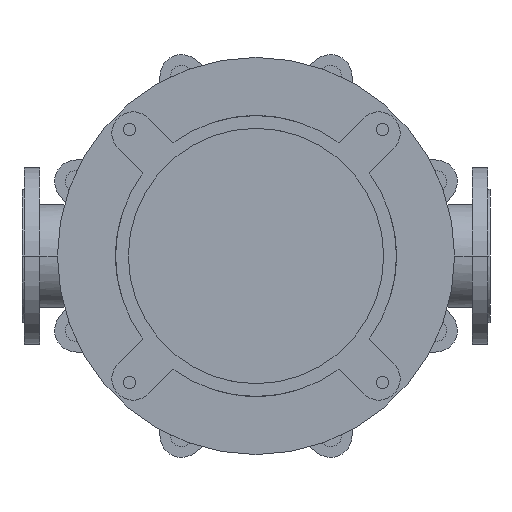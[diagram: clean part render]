
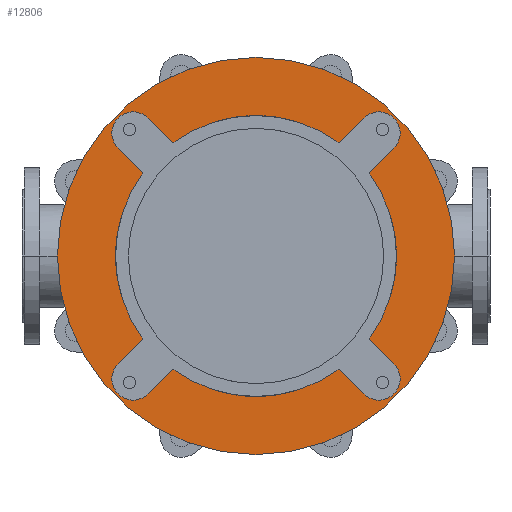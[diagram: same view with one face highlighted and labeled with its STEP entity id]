
A CAD part, front view. The second image highlights one B-rep face of the part: STEP entity #12806.
In plain terms, the highlighted planar face has unit normal (0, -1, 0).
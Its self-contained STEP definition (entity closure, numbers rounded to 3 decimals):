
#2514=CARTESIAN_POINT('',(0.,-25.,0.));
#2515=DIRECTION('',(0.,1.,0.));
#2516=DIRECTION('',(0.592,0.,-0.806));
#2517=AXIS2_PLACEMENT_3D('',#2514,#2515,#2516);
#2532=CARTESIAN_POINT('',(0.,-25.,0.));
#2533=DIRECTION('',(0.,1.,0.));
#2534=DIRECTION('',(0.806,0.,0.592));
#2535=AXIS2_PLACEMENT_3D('',#2532,#2533,#2534);
#2559=CARTESIAN_POINT('',(0.,-25.,0.));
#2560=DIRECTION('',(0.,1.,0.));
#2561=DIRECTION('',(-0.806,0.,-0.592));
#2562=AXIS2_PLACEMENT_3D('',#2559,#2560,#2561);
#2568=CARTESIAN_POINT('',(0.,-25.,0.));
#2569=DIRECTION('',(0.,1.,0.));
#2570=DIRECTION('',(-0.592,0.,0.806));
#2571=AXIS2_PLACEMENT_3D('',#2568,#2569,#2570);
#2746=CARTESIAN_POINT('',(0.,-25.,0.));
#2747=DIRECTION('',(0.,-1.,0.));
#2748=DIRECTION('',(-1.,0.,0.));
#2749=AXIS2_PLACEMENT_3D('',#2746,#2747,#2748);
#2751=CARTESIAN_POINT('',(0.,-25.,0.));
#2752=DIRECTION('',(0.,1.,0.));
#2753=DIRECTION('',(-1.,0.,0.));
#2754=AXIS2_PLACEMENT_3D('',#2751,#2752,#2753);
#2756=CARTESIAN_POINT('',(-173.241,-25.,173.241));
#2757=DIRECTION('',(0.,-1.,0.));
#2758=DIRECTION('',(0.707,0.,0.707));
#2759=AXIS2_PLACEMENT_3D('',#2756,#2757,#2758);
#2761=DIRECTION('',(0.707,0.,-0.707));
#2762=VECTOR('',#2761,49.286);
#2763=CARTESIAN_POINT('',(-194.454,-25.,152.028));
#2764=LINE('',#2763,#2762);
#2765=DIRECTION('',(-0.707,0.,-0.707));
#2766=VECTOR('',#2765,49.286);
#2767=CARTESIAN_POINT('',(-159.604,-25.,-117.178));
#2768=LINE('',#2767,#2766);
#2769=CARTESIAN_POINT('',(-173.241,-25.,-173.241));
#2770=DIRECTION('',(0.,-1.,0.));
#2771=DIRECTION('',(-0.707,0.,0.707));
#2772=AXIS2_PLACEMENT_3D('',#2769,#2770,#2771);
#2774=DIRECTION('',(0.707,0.,0.707));
#2775=VECTOR('',#2774,49.286);
#2776=CARTESIAN_POINT('',(-152.028,-25.,-194.454));
#2777=LINE('',#2776,#2775);
#2778=DIRECTION('',(0.707,0.,-0.707));
#2779=VECTOR('',#2778,49.286);
#2780=CARTESIAN_POINT('',(117.178,-25.,-159.604));
#2781=LINE('',#2780,#2779);
#2782=CARTESIAN_POINT('',(173.241,-25.,-173.241));
#2783=DIRECTION('',(0.,-1.,0.));
#2784=DIRECTION('',(-0.707,0.,-0.707));
#2785=AXIS2_PLACEMENT_3D('',#2782,#2783,#2784);
#2787=DIRECTION('',(-0.707,0.,0.707));
#2788=VECTOR('',#2787,49.286);
#2789=CARTESIAN_POINT('',(194.454,-25.,-152.028));
#2790=LINE('',#2789,#2788);
#2791=DIRECTION('',(0.707,0.,0.707));
#2792=VECTOR('',#2791,49.286);
#2793=CARTESIAN_POINT('',(159.604,-25.,117.178));
#2794=LINE('',#2793,#2792);
#2795=CARTESIAN_POINT('',(173.241,-25.,173.241));
#2796=DIRECTION('',(0.,-1.,0.));
#2797=DIRECTION('',(0.707,0.,-0.707));
#2798=AXIS2_PLACEMENT_3D('',#2795,#2796,#2797);
#2800=DIRECTION('',(-0.707,0.,-0.707));
#2801=VECTOR('',#2800,49.286);
#2802=CARTESIAN_POINT('',(152.028,-25.,194.454));
#2803=LINE('',#2802,#2801);
#2804=DIRECTION('',(-0.707,0.,0.707));
#2805=VECTOR('',#2804,49.286);
#2806=CARTESIAN_POINT('',(-117.178,-25.,159.604));
#2807=LINE('',#2806,#2805);
#8319=CARTESIAN_POINT('',(-280.,-25.,0.));
#8320=CARTESIAN_POINT('',(280.,-25.,0.));
#8321=VERTEX_POINT('',#8319);
#8322=VERTEX_POINT('',#8320);
#8343=CARTESIAN_POINT('',(-194.454,-25.,-152.028));
#8344=CARTESIAN_POINT('',(-152.028,-25.,-194.454));
#8345=VERTEX_POINT('',#8343);
#8346=VERTEX_POINT('',#8344);
#8347=CARTESIAN_POINT('',(-117.178,-25.,-159.604));
#8348=VERTEX_POINT('',#8347);
#8349=CARTESIAN_POINT('',(-159.604,-25.,-117.178));
#8350=VERTEX_POINT('',#8349);
#8359=CARTESIAN_POINT('',(152.028,-25.,-194.454));
#8360=CARTESIAN_POINT('',(194.454,-25.,-152.028));
#8361=VERTEX_POINT('',#8359);
#8362=VERTEX_POINT('',#8360);
#8363=CARTESIAN_POINT('',(159.604,-25.,-117.178));
#8364=VERTEX_POINT('',#8363);
#8365=CARTESIAN_POINT('',(117.178,-25.,-159.604));
#8366=VERTEX_POINT('',#8365);
#8375=CARTESIAN_POINT('',(194.454,-25.,152.028));
#8376=CARTESIAN_POINT('',(152.028,-25.,194.454));
#8377=VERTEX_POINT('',#8375);
#8378=VERTEX_POINT('',#8376);
#8379=CARTESIAN_POINT('',(117.178,-25.,159.604));
#8380=VERTEX_POINT('',#8379);
#8381=CARTESIAN_POINT('',(159.604,-25.,117.178));
#8382=VERTEX_POINT('',#8381);
#8391=CARTESIAN_POINT('',(-152.028,-25.,194.454));
#8392=CARTESIAN_POINT('',(-194.454,-25.,152.028));
#8393=VERTEX_POINT('',#8391);
#8394=VERTEX_POINT('',#8392);
#8395=CARTESIAN_POINT('',(-159.604,-25.,117.178));
#8396=VERTEX_POINT('',#8395);
#8397=CARTESIAN_POINT('',(-117.178,-25.,159.604));
#8398=VERTEX_POINT('',#8397);
#12766=CARTESIAN_POINT('',(0.,-25.,0.));
#12767=DIRECTION('',(0.,-1.,0.));
#12768=DIRECTION('',(-1.,0.,0.));
#12769=AXIS2_PLACEMENT_3D('',#12766,#12767,#12768);
#12770=PLANE('',#12769);
#12772=ORIENTED_EDGE('',*,*,#12771,.F.);
#12774=ORIENTED_EDGE('',*,*,#12773,.T.);
#12775=EDGE_LOOP('',(#12772,#12774));
#12776=FACE_OUTER_BOUND('',#12775,.F.);
#12778=ORIENTED_EDGE('',*,*,#12777,.T.);
#12780=ORIENTED_EDGE('',*,*,#12779,.T.);
#12781=ORIENTED_EDGE('',*,*,#12719,.F.);
#12783=ORIENTED_EDGE('',*,*,#12782,.T.);
#12785=ORIENTED_EDGE('',*,*,#12784,.T.);
#12787=ORIENTED_EDGE('',*,*,#12786,.T.);
#12788=ORIENTED_EDGE('',*,*,#12672,.F.);
#12789=ORIENTED_EDGE('',*,*,#12756,.T.);
#12791=ORIENTED_EDGE('',*,*,#12790,.T.);
#12793=ORIENTED_EDGE('',*,*,#12792,.T.);
#12794=ORIENTED_EDGE('',*,*,#12693,.F.);
#12796=ORIENTED_EDGE('',*,*,#12795,.T.);
#12798=ORIENTED_EDGE('',*,*,#12797,.T.);
#12800=ORIENTED_EDGE('',*,*,#12799,.T.);
#12801=ORIENTED_EDGE('',*,*,#12737,.F.);
#12803=ORIENTED_EDGE('',*,*,#12802,.T.);
#12804=EDGE_LOOP('',(#12778,#12780,#12781,#12783,#12785,#12787,#12788,#12789,
#12791,#12793,#12794,#12796,#12798,#12800,#12801,#12803));
#12805=FACE_BOUND('',#12804,.F.);
#12806=ADVANCED_FACE('',(#12776,#12805),#12770,.T.);
#2518=CIRCLE('',#2517,198.);
#2536=CIRCLE('',#2535,198.);
#2563=CIRCLE('',#2562,198.);
#2572=CIRCLE('',#2571,198.);
#2750=CIRCLE('',#2749,280.);
#2755=CIRCLE('',#2754,280.);
#2760=CIRCLE('',#2759,30.);
#2773=CIRCLE('',#2772,30.);
#2786=CIRCLE('',#2785,30.);
#2799=CIRCLE('',#2798,30.);
#12672=EDGE_CURVE('',#8366,#8348,#2518,.T.);
#12693=EDGE_CURVE('',#8382,#8364,#2536,.T.);
#12719=EDGE_CURVE('',#8350,#8396,#2563,.T.);
#12737=EDGE_CURVE('',#8398,#8380,#2572,.T.);
#12756=EDGE_CURVE('',#8366,#8361,#2781,.T.);
#12771=EDGE_CURVE('',#8321,#8322,#2750,.T.);
#12773=EDGE_CURVE('',#8321,#8322,#2755,.T.);
#12777=EDGE_CURVE('',#8393,#8394,#2760,.T.);
#12779=EDGE_CURVE('',#8394,#8396,#2764,.T.);
#12782=EDGE_CURVE('',#8350,#8345,#2768,.T.);
#12784=EDGE_CURVE('',#8345,#8346,#2773,.T.);
#12786=EDGE_CURVE('',#8346,#8348,#2777,.T.);
#12790=EDGE_CURVE('',#8361,#8362,#2786,.T.);
#12792=EDGE_CURVE('',#8362,#8364,#2790,.T.);
#12795=EDGE_CURVE('',#8382,#8377,#2794,.T.);
#12797=EDGE_CURVE('',#8377,#8378,#2799,.T.);
#12799=EDGE_CURVE('',#8378,#8380,#2803,.T.);
#12802=EDGE_CURVE('',#8398,#8393,#2807,.T.);
